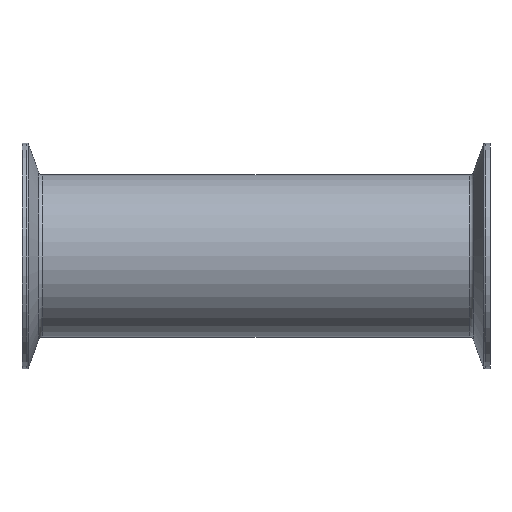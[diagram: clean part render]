
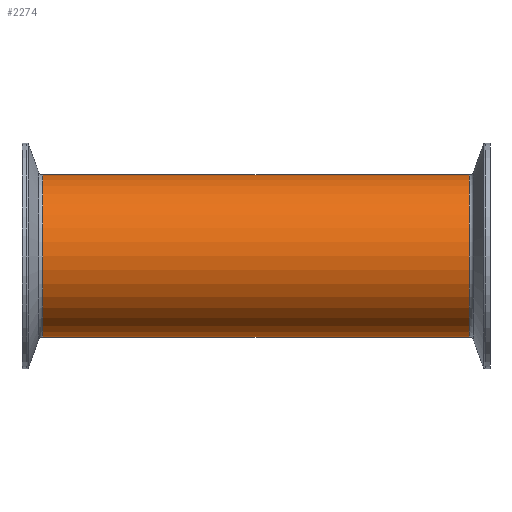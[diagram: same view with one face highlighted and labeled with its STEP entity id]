
A CAD part, front view. The second image highlights one B-rep face of the part: STEP entity #2274.
In plain terms, the highlighted cylindrical face has radius 38.1 mm (diameter 76.2 mm), a full revolution.
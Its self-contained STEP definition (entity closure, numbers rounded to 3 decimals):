
#66=CIRCLE('',#2320,38.1);
#67=CIRCLE('',#2323,38.1);
#139=CIRCLE('',#2467,38.1);
#140=CIRCLE('',#2468,38.1);
#202=LINE('',#3076,#278);
#207=LINE('',#3090,#283);
#278=VECTOR('',#2534,1000.);
#283=VECTOR('',#2545,1000.);
#690=ORIENTED_EDGE('',*,*,#924,.F.);
#691=ORIENTED_EDGE('',*,*,#792,.T.);
#692=ORIENTED_EDGE('',*,*,#750,.T.);
#693=ORIENTED_EDGE('',*,*,#769,.T.);
#694=ORIENTED_EDGE('',*,*,#781,.T.);
#695=ORIENTED_EDGE('',*,*,#786,.T.);
#696=ORIENTED_EDGE('',*,*,#776,.T.);
#697=ORIENTED_EDGE('',*,*,#762,.T.);
#698=ORIENTED_EDGE('',*,*,#756,.T.);
#699=ORIENTED_EDGE('',*,*,#925,.T.);
#750=EDGE_CURVE('',#950,#951,#1087,.T.);
#756=EDGE_CURVE('',#956,#957,#1090,.T.);
#762=EDGE_CURVE('',#962,#956,#202,.F.);
#769=EDGE_CURVE('',#951,#968,#207,.T.);
#776=EDGE_CURVE('',#974,#962,#1093,.T.);
#781=EDGE_CURVE('',#968,#978,#1096,.T.);
#786=EDGE_CURVE('',#978,#974,#66,.F.);
#792=EDGE_CURVE('',#957,#950,#67,.F.);
#924=EDGE_CURVE('',#1061,#1061,#139,.T.);
#925=EDGE_CURVE('',#1062,#1062,#140,.T.);
#950=VERTEX_POINT('',#3031);
#951=VERTEX_POINT('',#3032);
#956=VERTEX_POINT('',#3057);
#957=VERTEX_POINT('',#3058);
#962=VERTEX_POINT('',#3077);
#968=VERTEX_POINT('',#3091);
#974=VERTEX_POINT('',#3111);
#978=VERTEX_POINT('',#3134);
#1061=VERTEX_POINT('',#3469);
#1062=VERTEX_POINT('',#3471);
#1087=B_SPLINE_CURVE_WITH_KNOTS('',3,(#3024,#3025,#3026,#3027,#3028,#3029,
#3030),.UNSPECIFIED.,.F.,.F.,(4,1,1,1,4),(0.049,0.053,
0.057,0.061,0.066),.UNSPECIFIED.);
#1090=B_SPLINE_CURVE_WITH_KNOTS('',3,(#3050,#3051,#3052,#3053,#3054,#3055,
#3056),.UNSPECIFIED.,.F.,.F.,(4,1,1,1,4),(0.033,0.037,
0.041,0.045,0.05),.UNSPECIFIED.);
#1093=B_SPLINE_CURVE_WITH_KNOTS('',3,(#3104,#3105,#3106,#3107,#3108,#3109,
#3110),.UNSPECIFIED.,.F.,.F.,(4,1,1,1,4),(0.016,0.02,
0.024,0.029,0.033),.UNSPECIFIED.);
#1096=B_SPLINE_CURVE_WITH_KNOTS('',3,(#3127,#3128,#3129,#3130,#3131,#3132,
#3133),.UNSPECIFIED.,.F.,.F.,(4,1,1,1,4),(0.,0.004,
0.008,0.013,0.017),.UNSPECIFIED.);
#1202=EDGE_LOOP('',(#690));
#1203=EDGE_LOOP('',(#691,#692,#693,#694,#695,#696,#697,#698));
#1204=EDGE_LOOP('',(#699));
#1353=FACE_BOUND('',#1202,.T.);
#1354=FACE_BOUND('',#1203,.T.);
#1355=FACE_BOUND('',#1204,.T.);
#1438=CYLINDRICAL_SURFACE('',#2466,38.1);
#2274=ADVANCED_FACE('',(#1353,#1354,#1355),#1438,.T.);
#2320=AXIS2_PLACEMENT_3D('',#3150,#2566,#2567);
#2323=AXIS2_PLACEMENT_3D('',#3162,#2577,#2578);
#2466=AXIS2_PLACEMENT_3D('',#3467,#2918,#2919);
#2467=AXIS2_PLACEMENT_3D('',#3468,#2920,#2921);
#2468=AXIS2_PLACEMENT_3D('',#3470,#2922,#2923);
#2534=DIRECTION('',(1.,0.,0.));
#2545=DIRECTION('',(1.,0.,0.));
#2566=DIRECTION('',(-1.,0.,0.));
#2567=DIRECTION('',(0.,0.,1.));
#2577=DIRECTION('',(1.,0.,0.));
#2578=DIRECTION('',(0.,0.,-1.));
#2918=DIRECTION('',(1.,0.,0.));
#2919=DIRECTION('',(0.,0.,-1.));
#2920=DIRECTION('',(1.,0.,0.));
#2921=DIRECTION('',(0.,0.,-1.));
#2922=DIRECTION('',(1.,0.,0.));
#2923=DIRECTION('',(0.,0.,-1.));
#3024=CARTESIAN_POINT('',(-70.,-20.395,-14.2));
#3025=CARTESIAN_POINT('',(-70.,-20.92,-15.507));
#3026=CARTESIAN_POINT('',(-69.484,-22.121,-18.06));
#3027=CARTESIAN_POINT('',(-67.418,-24.071,-21.257));
#3028=CARTESIAN_POINT('',(-64.218,-25.791,-23.569));
#3029=CARTESIAN_POINT('',(-61.425,-26.323,-24.2));
#3030=CARTESIAN_POINT('',(-60.,-26.323,-24.2));
#3031=CARTESIAN_POINT('',(-70.,-20.395,-14.2));
#3032=CARTESIAN_POINT('',(-60.,-26.323,-24.2));
#3050=CARTESIAN_POINT('',(-60.,-26.323,24.2));
#3051=CARTESIAN_POINT('',(-61.402,-26.323,24.2));
#3052=CARTESIAN_POINT('',(-64.217,-25.796,23.575));
#3053=CARTESIAN_POINT('',(-67.422,-24.068,21.253));
#3054=CARTESIAN_POINT('',(-69.488,-22.117,18.052));
#3055=CARTESIAN_POINT('',(-70.,-20.917,15.499));
#3056=CARTESIAN_POINT('',(-70.,-20.395,14.2));
#3057=CARTESIAN_POINT('',(-60.,-26.323,24.2));
#3058=CARTESIAN_POINT('',(-70.,-20.395,14.2));
#3076=CARTESIAN_POINT('',(110.,-26.323,24.2));
#3077=CARTESIAN_POINT('',(60.,-26.323,24.2));
#3090=CARTESIAN_POINT('',(110.,-26.323,-24.2));
#3091=CARTESIAN_POINT('',(60.,-26.323,-24.2));
#3104=CARTESIAN_POINT('',(70.,-20.395,14.2));
#3105=CARTESIAN_POINT('',(70.,-20.921,15.51));
#3106=CARTESIAN_POINT('',(69.484,-22.123,18.064));
#3107=CARTESIAN_POINT('',(67.405,-24.078,21.268));
#3108=CARTESIAN_POINT('',(64.223,-25.791,23.57));
#3109=CARTESIAN_POINT('',(61.405,-26.323,24.2));
#3110=CARTESIAN_POINT('',(60.,-26.323,24.2));
#3111=CARTESIAN_POINT('',(70.,-20.395,14.2));
#3127=CARTESIAN_POINT('',(60.,-26.323,-24.2));
#3128=CARTESIAN_POINT('',(61.427,-26.323,-24.2));
#3129=CARTESIAN_POINT('',(64.2,-25.797,-23.576));
#3130=CARTESIAN_POINT('',(67.421,-24.072,-21.26));
#3131=CARTESIAN_POINT('',(69.487,-22.113,-18.042));
#3132=CARTESIAN_POINT('',(70.,-20.925,-15.519));
#3133=CARTESIAN_POINT('',(70.,-20.395,-14.2));
#3134=CARTESIAN_POINT('',(70.,-20.395,-14.2));
#3150=CARTESIAN_POINT('',(70.,-55.75,0.));
#3162=CARTESIAN_POINT('',(-70.,-55.75,0.));
#3467=CARTESIAN_POINT('',(110.,-55.75,0.));
#3468=CARTESIAN_POINT('',(100.326,-55.75,0.));
#3469=CARTESIAN_POINT('',(100.326,-55.75,-38.1));
#3470=CARTESIAN_POINT('',(-100.326,-55.75,0.));
#3471=CARTESIAN_POINT('',(-100.326,-55.75,-38.1));
